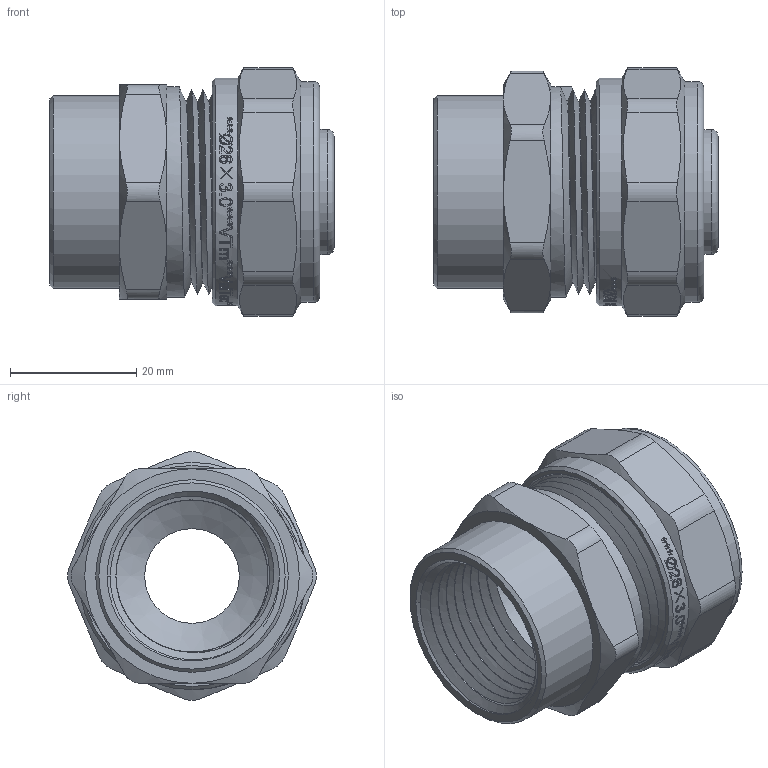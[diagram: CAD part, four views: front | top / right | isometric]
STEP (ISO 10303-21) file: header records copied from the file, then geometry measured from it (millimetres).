
FILE_DESCRIPTION(/* description */ (''),/* implementation_level */ '2;1');
FILE_NAME(/* name */ 'E:\Артём\00000\Работа удаленка\Обжимные фитинги\VTm.302.N.002605.stp',/* time_stamp */ '2020-06-08T13:15:16+03:00',/* author */ ('BeN_GaN'),/* organization */ (''),/* preprocessor_version */ 'ST-DEVELOPER v18',/* originating_system */ 'Autodesk Inventor 2020',/* authorisation */ '');
FILE_SCHEMA (('AUTOMOTIVE_DESIGN { 1 0 10303 214 3 1 1 }'));
Length unit declared in the file: millimetre
Products named in the file (1): VTm.302.N.002605
Bounding box: 45 x 39.39 x 39.39 mm (x, y, z)
Volume: 20297.8 mm3; surface area: 17720.6 mm2
Topology: 1 solids, 1 shells, 696 faces, 1969 edges, 1331 vertices
Faces by surface type: bspline 372, plane 170, cylinder 100, cone 30, torus 24
Full cylindrical faces by diameter (mm): 15 x1, 17.4 x2, 19.8 x5, 24.1 x8, 24.516 x4, 25.435 x5, 26.2 x1, 26.7 x1, 27.7 x10, 28.5 x1, 28.7 x2, 30.5 x2, 33.3 x2, 35 x1, 36 x1
Entity records: 31329 total; most frequent: CARTESIAN_POINT 15782, ORIENTED_EDGE 3938, DIRECTION 2028, EDGE_CURVE 1969, VERTEX_POINT 1331, B_SPLINE_CURVE_WITH_KNOTS 851, LINE 778, VECTOR 778
